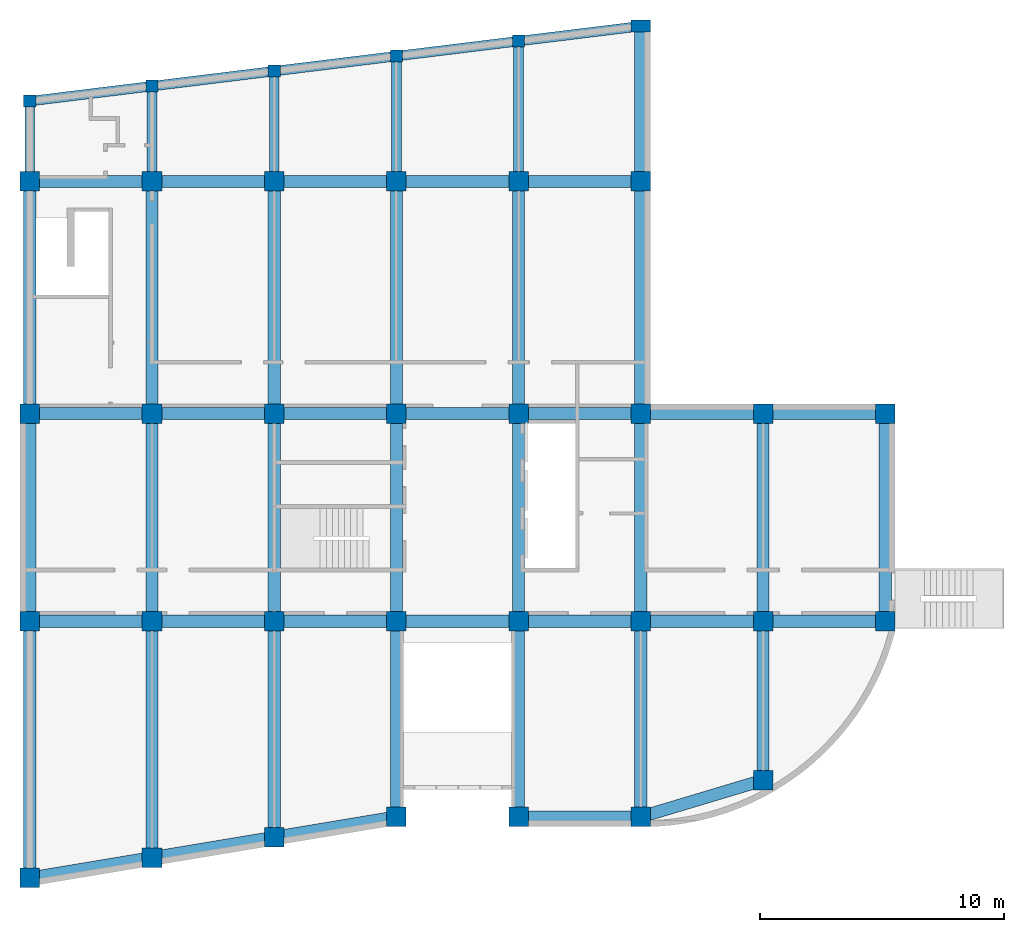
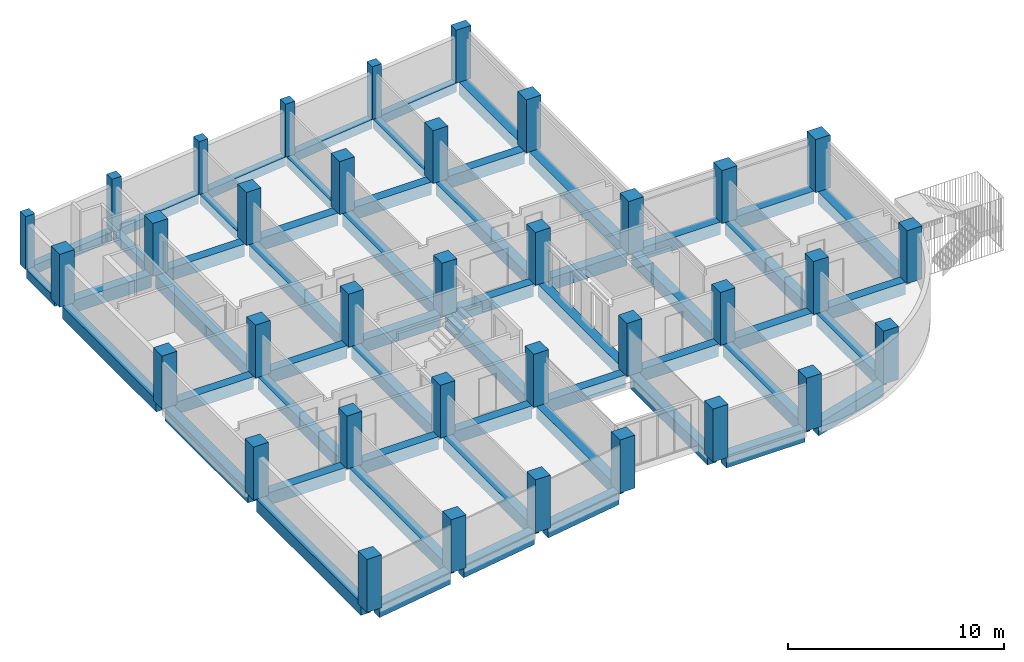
# One storey, part 2 of 7: 56 beams, 35 columns.
"""IFC2X3 building model written with IfcOpenShell, lengths in millimetres."""

from ifc_helpers import new_model, entity, si_unit, converted_unit, derived_unit, money_unit, direction, frame, origin_with_axes, place, context, subcontext, project, spatial, faceted_brep, material, type_object, element, save


model = new_model("IFC2X3")

# Units and contexts
model_context = context("Model", 3, precision=0.01, world=origin_with_axes(), true_north=direction((0.0, 1.0)))
body_context = subcontext(model_context, "Body", "Model", "MODEL_VIEW")
ifc_project = project(units=[si_unit("LENGTHUNIT", "METRE", prefix="MILLI"), si_unit("AREAUNIT", "SQUARE_METRE"), si_unit("VOLUMEUNIT", "CUBIC_METRE"), converted_unit("PLANEANGLEUNIT", "DEGREE", entity("IfcPlaneAngleMeasure", 0.0174532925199), si_unit("PLANEANGLEUNIT", "RADIAN"), dimensions=[0, 0, 0, 0, 0, 0, 0]), si_unit("SOLIDANGLEUNIT", "STERADIAN"), money_unit("JPY"), converted_unit("TIMEUNIT", "Year", entity("IfcTimeMeasure", 31556926.0), si_unit("TIMEUNIT", "SECOND"), dimensions=[0, 0, 1, 0, 0, 0, 0]), si_unit("MASSUNIT", "GRAM", prefix="KILO"), si_unit("THERMODYNAMICTEMPERATUREUNIT", "DEGREE_CELSIUS"), si_unit("LUMINOUSINTENSITYUNIT", "LUMEN"), si_unit("ENERGYUNIT", "JOULE", prefix="MEGA"), derived_unit("THERMALCONDUCTANCEUNIT", [(si_unit("POWERUNIT", "WATT"), 1), (si_unit("LENGTHUNIT", "METRE"), -1), (si_unit("THERMODYNAMICTEMPERATUREUNIT", "KELVIN"), -1)]), derived_unit("SPECIFICHEATCAPACITYUNIT", [(si_unit("ENERGYUNIT", "JOULE"), 1), (si_unit("MASSUNIT", "GRAM", prefix="KILO"), -1), (si_unit("THERMODYNAMICTEMPERATUREUNIT", "KELVIN"), -1)]), derived_unit("MASSDENSITYUNIT", [(si_unit("MASSUNIT", "GRAM", prefix="KILO"), 1), (si_unit("VOLUMEUNIT", "CUBIC_METRE"), -1)])], contexts=[model_context])

# Site, building, storey
site_placement = place(None, origin_with_axes())
site = spatial("IfcSite", under=ifc_project, at=site_placement, Name="サイト", CompositionType="ELEMENT")
building_placement = place(site_placement, origin_with_axes())
building = spatial("IfcBuilding", under=site, at=building_placement, Name="建築", CompositionType="ELEMENT")
storey_placement = place(building_placement, frame((0.0, 0.0, 3000.0), z_axis=(0.0, 0.0, 1.0), x_axis=(1.0, 0.0, 0.0)))
storey = spatial("IfcBuildingStorey", under=building, at=storey_placement, Name="2FL", CompositionType="ELEMENT", Elevation=3000.0)

# Columns
ifc_material = material(Name="コンクリート")
column_type_1 = type_object("IfcColumnType", Name="コンクリート 800 x 800", PredefinedType="NOTDEFINED")
for number, where, z_axis, x_axis, name in (
    (1, (0.0, 0.0, 0.0), (0.0, 0.0, 1.0), (1.0, 0.0, 0.0), "C1"),
    (2, (5000.0, 0.0, 0.0), (0.0, 0.0, 1.0), (1.0, 0.0, 0.0), "C1"),
    (3, (10000.0, 0.0, 0.0), (0.0, 0.0, 1.0), (1.0, 0.0, 0.0), "C1"),
    (4, (15000.0, 0.0, 0.0), (0.0, 0.0, 1.0), (1.0, 0.0, 0.0), "C1"),
    (5, (20000.0, 0.0, 0.0), (0.0, 0.0, 1.0), (1.0, 0.0, 0.0), "C1"),
    (6, (25000.0, 0.0, 0.0), (0.0, 0.0, 1.0), (1.0, 0.0, 0.0), "C1"),
    (7, (30000.0, 0.0, 0.0), (0.0, 0.0, 1.0), (1.0, 0.0, 0.0), "C1"),
    (8, (35000.0, 0.0, 0.0), (0.0, 0.0, 1.0), (1.0, 0.0, 0.0), "C1"),
    (9, (35000.0, 8500.0, 0.0), (0.0, 0.0, 1.0), (1.0, 0.0, 0.0), "C1"),
    (10, (30000.0, 8500.0, 0.0), (0.0, 0.0, 1.0), (1.0, 0.0, 0.0), "C1"),
    (11, (25000.0, 8500.0, 0.0), (0.0, 0.0, 1.0), (1.0, 0.0, 0.0), "C1"),
    (12, (20000.0, 8500.0, 0.0), (0.0, 0.0, 1.0), (1.0, 0.0, 0.0), "C1"),
    (13, (15000.0, 8500.0, 0.0), (0.0, 0.0, 1.0), (1.0, 0.0, 0.0), "C1"),
    (14, (10000.0, 8500.0, 0.0), (0.0, 0.0, 1.0), (1.0, 0.0, 0.0), "C1"),
    (15, (5000.0, 8500.0, 0.0), (0.0, 0.0, 1.0), (1.0, 0.0, 0.0), "C1"),
    (16, (0.0, 8500.0, 0.0), (0.0, 0.0, 1.0), (1.0, 0.0, 0.0), "C1"),
    (17, (0.0, -10500.0, 0.0), (0.0, 0.0, 1.0), (1.0, 0.0, 0.0), "C1"),
    (18, (5000.0, -9666.66666667, 0.0), (0.0, 0.0, 1.0), (1.0, 0.0, 0.0), "C1"),
    (19, (10000.0, -8833.33333333, 0.0), (0.0, 0.0, 1.0), (1.0, 0.0, 0.0), "C1"),
    (20, (15000.0, -8000.0, 0.0), (0.0, 0.0, 1.0), (1.0, 0.0, 0.0), "C1"),
    (21, (20000.0, -8000.0, 0.0), (0.0, 0.0, 1.0), (1.0, 0.0, 0.0), "C1"),
    (22, (25000.0, -8000.0, 0.0), (0.0, 0.0, 1.0), (1.0, 0.0, 0.0), "C1"),
    (23, (25000.0, 18000.0, 0.0), (0.0, 0.0, 1.0), (1.0, 0.0, 0.0), "C1"),
    (24, (20000.0, 18000.0, 0.0), (0.0, 0.0, 1.0), (1.0, 0.0, 0.0), "C1"),
    (25, (15000.0, 18000.0, 0.0), (0.0, 0.0, 1.0), (1.0, 0.0, 0.0), "C1"),
    (26, (10000.0, 18000.0, 0.0), (0.0, 0.0, 1.0), (1.0, 0.0, 0.0), "C1"),
    (27, (5000.0, 18000.0, 0.0), (0.0, 0.0, 1.0), (1.0, 0.0, 0.0), "C1"),
    (28, (0.0, 18000.0, 0.0), (0.0, 0.0, 1.0), (1.0, 0.0, 0.0), "C1"),
    (29, (30000.0, -6500.0, 0.0), (0.0, 0.0, 1.0), (1.0, 0.0, 0.0), "C1"),
):
    element("IfcColumn", number, at=place(storey_placement, frame(where, z_axis=z_axis, x_axis=x_axis)), inside=storey, type_object=column_type_1, material=ifc_material, Name=name, context=body_context, shape_type="Brep", body=[
        faceted_brep([(-400.0, -400.0, 3000.0), (-400.0, -400.0, 0.0), (400.0, -400.0, 0.0), (400.0, -400.0, 3000.0), (-400.0, 400.0, 3000.0), (-400.0, 400.0, 0.0), (400.0, 400.0, 0.0), (400.0, 400.0, 3000.0)], [[[0, 1, 2, 3]], [[4, 5, 1, 0]], [[2, 1, 5, 6]], [[3, 2, 6, 7]], [[4, 0, 3, 7]], [[7, 6, 5, 4]]]),
    ])
column_type_2 = type_object("IfcColumnType", Name="コンクリート 800 x 500", PredefinedType="NOTDEFINED")
column_placement = place(storey_placement, frame((25000.0, 24352.6436992, 0.0), z_axis=(0.0, 0.0, 1.0), x_axis=(1.0, 0.0, 0.0)))
element("IfcColumn", 30, at=column_placement, inside=storey, type_object=column_type_2, material=ifc_material, Name="C3", context=body_context, shape_type="Brep", body=[
    faceted_brep([(-400.0, -250.0, 3000.0), (-400.0, -250.0, 0.0), (400.0, -250.0, 0.0), (400.0, -250.0, 3000.0), (-400.0, 250.0, 3000.0), (-400.0, 250.0, 0.0), (400.0, 250.0, 0.0), (400.0, 250.0, 3000.0)], [[[0, 1, 2, 3]], [[4, 5, 1, 0]], [[2, 1, 5, 6]], [[3, 2, 6, 7]], [[4, 0, 3, 7]], [[7, 6, 5, 4]]]),
])
column_type_3 = type_object("IfcColumnType", Name="コンクリート 500 x 500", PredefinedType="NOTDEFINED")
for number, where, z_axis, x_axis, name in (
    (31, (20000.0, 23738.7208947, 0.0), (0.0, 0.0, 1.0), (1.0, 0.0, 0.0), "C2"),
    (32, (15000.0, 23124.7980902, 0.0), (0.0, 0.0, 1.0), (1.0, 0.0, 0.0), "C2"),
    (33, (10000.0, 22510.8752856, 0.0), (0.0, 0.0, 1.0), (1.0, 0.0, 0.0), "C2"),
    (34, (5000.0, 21896.9524811, 0.0), (0.0, 0.0, 1.0), (1.0, 0.0, 0.0), "C2"),
    (35, (0.0, 21283.0296766, 0.0), (0.0, 0.0, 1.0), (1.0, 0.0, 0.0), "C2"),
):
    element("IfcColumn", number, at=place(storey_placement, frame(where, z_axis=z_axis, x_axis=x_axis)), inside=storey, type_object=column_type_3, material=ifc_material, Name=name, context=body_context, shape_type="Brep", body=[
        faceted_brep([(-250.0, -250.0, 3000.0), (-250.0, -250.0, 0.0), (250.0, -250.0, 0.0), (250.0, -250.0, 3000.0), (-250.0, 250.0, 3000.0), (-250.0, 250.0, 0.0), (250.0, 250.0, 0.0), (250.0, 250.0, 3000.0)], [[[0, 1, 2, 3]], [[4, 5, 1, 0]], [[2, 1, 5, 6]], [[3, 2, 6, 7]], [[4, 0, 3, 7]], [[7, 6, 5, 4]]]),
    ])

# Beams
beam_type_1 = type_object("IfcBeamType", Name="コンクリート 500 x 700", PredefinedType="NOTDEFINED")
beam_1_placement = place(storey_placement, frame((30000.0, 0.0, 0.0), z_axis=(0.0, 0.0, 1.0), x_axis=(-1.0, 0.0, 0.0)))
element("IfcBeam", 36, at=beam_1_placement, inside=storey, type_object=beam_type_1, material=ifc_material, Name="G1", context=body_context, shape_type="Brep", body=[
    faceted_brep([(-250.0, 6100.0, -700.0), (-250.0, 400.0, -700.0), (-250.0, 400.0, 0.0), (-250.0, 6100.0, 0.0), (250.0, 6100.0, -700.0), (250.0, 400.0, -700.0), (250.0, 400.0, 0.0), (250.0, 6100.0, 0.0)], [[[0, 1, 2, 3]], [[4, 5, 1, 0]], [[5, 6, 2, 1]], [[3, 2, 6, 7]], [[4, 0, 3, 7]], [[7, 6, 5, 4]]]),
])
beam_2_placement = place(storey_placement, frame((30000.0, -6500.0, 0.0), z_axis=(0.0, 0.0, 1.0), x_axis=(-0.287347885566, 0.957826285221, 0.0)))
element("IfcBeam", 37, at=beam_2_placement, inside=storey, type_object=beam_type_1, material=ifc_material, Name="G2", context=body_context, shape_type="Brep", body=[
    faceted_brep([(250.000000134, 342.612260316, -700.0), (250.000003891, 4727.54099293, -700.0), (250.000003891, 4727.54099293, 0.0), (250.000000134, 342.612260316, 0.0), (-249.99999984, 492.612260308, -700.0), (-249.999998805, 4877.54099374, -700.0), (-249.999998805, 4877.54099374, 0.0), (-249.99999984, 492.612260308, 0.0)], [[[0, 1, 2, 3]], [[4, 5, 1, 0]], [[5, 6, 2, 1]], [[3, 2, 6, 7]], [[4, 0, 3, 7]], [[7, 6, 5, 4]]]),
])
for number, where, z_axis, x_axis, name in (
    (38, (0.0, 0.0, 0.0), (0.0, 0.0, 1.0), (0.0, -1.0, 0.0), "G1"),
    (39, (5000.0, 0.0, 0.0), (0.0, 0.0, 1.0), (0.0, -1.0, 0.0), "G1"),
    (40, (10000.0, 0.0, 0.0), (0.0, 0.0, 1.0), (0.0, -1.0, 0.0), "G1"),
    (41, (15000.0, 0.0, 0.0), (0.0, 0.0, 1.0), (0.0, -1.0, 0.0), "G1"),
    (42, (20000.0, 0.0, 0.0), (0.0, 0.0, 1.0), (0.0, -1.0, 0.0), "G1"),
    (43, (25000.0, 0.0, 0.0), (0.0, 0.0, 1.0), (0.0, -1.0, 0.0), "G1"),
    (44, (30000.0, 0.0, 0.0), (0.0, 0.0, 1.0), (0.0, -1.0, 0.0), "G1"),
):
    element("IfcBeam", number, at=place(storey_placement, frame(where, z_axis=z_axis, x_axis=x_axis)), inside=storey, type_object=beam_type_1, material=ifc_material, Name=name, context=body_context, shape_type="Brep", body=[
        faceted_brep([(-250.0, 4600.0, -700.0), (-250.0, 400.0, -700.0), (-250.0, 400.0, 0.0), (-250.0, 4600.0, 0.0), (250.0, 4600.0, -700.0), (250.0, 400.0, -700.0), (250.0, 400.0, 0.0), (250.0, 4600.0, 0.0)], [[[0, 1, 2, 3]], [[4, 5, 1, 0]], [[5, 6, 2, 1]], [[3, 2, 6, 7]], [[4, 0, 3, 7]], [[7, 6, 5, 4]]]),
    ])
for number, where, z_axis, x_axis, name in (
    (45, (0.0, 8500.0, 0.0), (0.0, 0.0, 1.0), (0.0, -1.0, 0.0), "G1"),
    (46, (5000.0, 8500.0, 0.0), (0.0, 0.0, 1.0), (0.0, -1.0, 0.0), "G1"),
    (47, (10000.0, 8500.0, 0.0), (0.0, 0.0, 1.0), (0.0, -1.0, 0.0), "G1"),
    (48, (15000.0, 8500.0, 0.0), (0.0, 0.0, 1.0), (0.0, -1.0, 0.0), "G1"),
    (49, (20000.0, 8500.0, 0.0), (0.0, 0.0, 1.0), (0.0, -1.0, 0.0), "G1"),
    (50, (25000.0, 8500.0, 0.0), (0.0, 0.0, 1.0), (0.0, -1.0, 0.0), "G1"),
    (51, (30000.0, 8500.0, 0.0), (0.0, 0.0, 1.0), (0.0, -1.0, 0.0), "G1"),
):
    element("IfcBeam", number, at=place(storey_placement, frame(where, z_axis=z_axis, x_axis=x_axis)), inside=storey, type_object=beam_type_1, material=ifc_material, Name=name, context=body_context, shape_type="Brep", body=[
        faceted_brep([(250.0, 400.0, 0.0), (250.0, 4600.0, 0.0), (-250.0, 4600.0, 0.0), (-250.0, 400.0, 0.0), (250.0, 400.0, -700.0), (250.0, 4600.0, -700.0), (-250.0, 4600.0, -700.0), (-250.0, 400.0, -700.0)], [[[0, 1, 2, 3]], [[4, 5, 1, 0]], [[5, 6, 2, 1]], [[3, 2, 6, 7]], [[4, 0, 3, 7]], [[7, 6, 5, 4]]]),
    ])
beam_3_placement = place(storey_placement, frame((35000.0, 8500.0, 0.0), z_axis=(0.0, 0.0, 1.0), x_axis=(-1.0, 0.0, 0.0)))
element("IfcBeam", 52, at=beam_3_placement, inside=storey, type_object=beam_type_1, material=ifc_material, Name="G1", context=body_context, shape_type="Brep", body=[
    faceted_brep([(250.0, 400.0, 0.0), (250.0, 8100.0, 0.0), (-250.0, 8100.0, 0.0), (-250.0, 400.0, 0.0), (250.0, 400.0, -700.0), (250.0, 8100.0, -700.0), (-250.0, 8100.0, -700.0), (-250.0, 400.0, -700.0)], [[[0, 1, 2, 3]], [[4, 5, 1, 0]], [[5, 6, 2, 1]], [[3, 2, 6, 7]], [[4, 0, 3, 7]], [[7, 6, 5, 4]]]),
])
beam_4_placement = place(storey_placement, origin_with_axes())
element("IfcBeam", 53, at=beam_4_placement, inside=storey, type_object=beam_type_1, material=ifc_material, Name="G1", context=body_context, shape_type="Brep", body=[
    faceted_brep([(-250.0, 8100.0, 0.0), (-250.0, 400.0, 0.0), (250.0, 400.0, 0.0), (250.0, 8100.0, 0.0), (-250.0, 8100.0, -700.0), (-250.0, 400.0, -700.0), (250.0, 400.0, -700.0), (250.0, 8100.0, -700.0)], [[[0, 1, 2, 3]], [[4, 5, 1, 0]], [[5, 6, 2, 1]], [[3, 2, 6, 7]], [[4, 0, 3, 7]], [[7, 6, 5, 4]]]),
])
beam_5_placement = place(storey_placement, frame((0.0, 18000.0, 0.0), z_axis=(0.0, 0.0, 1.0), x_axis=(-1.0, 0.0, 0.0)))
element("IfcBeam", 54, at=beam_5_placement, inside=storey, type_object=beam_type_1, material=ifc_material, Name="G1", context=body_context, shape_type="Brep", body=[
    faceted_brep([(250.0, 400.0, 0.0), (250.0, 9100.0, 0.0), (-250.0, 9100.0, 0.0), (-250.0, 400.0, 0.0), (250.0, 400.0, -700.0), (250.0, 9100.0, -700.0), (-250.0, 9100.0, -700.0), (-250.0, 400.0, -700.0)], [[[0, 1, 2, 3]], [[4, 5, 1, 0]], [[5, 6, 2, 1]], [[3, 2, 6, 7]], [[4, 0, 3, 7]], [[7, 6, 5, 4]]]),
])
for number, where, z_axis, x_axis, name in (
    (55, (0.0, 18000.0, 0.0), (0.0, 0.0, 1.0), (0.0, -1.0, 0.0), "G1"),
    (56, (5000.0, 18000.0, 0.0), (0.0, 0.0, 1.0), (0.0, -1.0, 0.0), "G1"),
    (57, (10000.0, 18000.0, 0.0), (0.0, 0.0, 1.0), (0.0, -1.0, 0.0), "G1"),
    (58, (15000.0, 18000.0, 0.0), (0.0, 0.0, 1.0), (0.0, -1.0, 0.0), "G1"),
    (59, (20000.0, 18000.0, 0.0), (0.0, 0.0, 1.0), (0.0, -1.0, 0.0), "G1"),
):
    element("IfcBeam", number, at=place(storey_placement, frame(where, z_axis=z_axis, x_axis=x_axis)), inside=storey, type_object=beam_type_1, material=ifc_material, Name=name, context=body_context, shape_type="Brep", body=[
        faceted_brep([(250.0, 400.0, 0.0), (250.0, 4600.0, 0.0), (-250.0, 4600.0, 0.0), (-250.0, 400.0, 0.0), (250.0, 400.0, -700.0), (250.0, 4600.0, -700.0), (-250.0, 4600.0, -700.0), (-250.0, 400.0, -700.0)], [[[0, 1, 2, 3]], [[4, 5, 1, 0]], [[5, 6, 2, 1]], [[3, 2, 6, 7]], [[4, 0, 3, 7]], [[7, 6, 5, 4]]]),
    ])
beam_6_placement = place(storey_placement, frame((25000.0, 18000.0, 0.0), z_axis=(0.0, 0.0, 1.0), x_axis=(-1.0, 0.0, 0.0)))
element("IfcBeam", 60, at=beam_6_placement, inside=storey, type_object=beam_type_1, material=ifc_material, Name="G1", context=body_context, shape_type="Brep", body=[
    faceted_brep([(250.0, 400.0, 0.0), (250.0, 9100.0, 0.0), (-250.0, 9100.0, 0.0), (-250.0, 400.0, 0.0), (250.0, 400.0, -700.0), (250.0, 9100.0, -700.0), (-250.0, 9100.0, -700.0), (-250.0, 400.0, -700.0)], [[[0, 1, 2, 3]], [[4, 5, 1, 0]], [[5, 6, 2, 1]], [[3, 2, 6, 7]], [[4, 0, 3, 7]], [[7, 6, 5, 4]]]),
])
for number, where, z_axis, x_axis, name in (
    (61, (5000.0, 8500.0, 0.0), (0.0, 0.0, 1.0), (-1.0, 0.0, 0.0), "G1"),
    (62, (10000.0, 8500.0, 0.0), (0.0, 0.0, 1.0), (-1.0, 0.0, 0.0), "G1"),
    (63, (15000.0, 8500.0, 0.0), (0.0, 0.0, 1.0), (-1.0, 0.0, 0.0), "G1"),
    (64, (20000.0, 8500.0, 0.0), (0.0, 0.0, 1.0), (-1.0, 0.0, 0.0), "G1"),
    (65, (25000.0, 8500.0, 0.0), (0.0, 0.0, 1.0), (-1.0, 0.0, 0.0), "G1"),
    (66, (30000.0, 8500.0, 0.0), (0.0, 0.0, 1.0), (-1.0, 0.0, 0.0), "G1"),
):
    element("IfcBeam", number, at=place(storey_placement, frame(where, z_axis=z_axis, x_axis=x_axis)), inside=storey, type_object=beam_type_1, material=ifc_material, Name=name, context=body_context, shape_type="Brep", body=[
        faceted_brep([(250.0, 400.0, 0.0), (250.0, 8100.0, 0.0), (-250.0, 8100.0, 0.0), (-250.0, 400.0, 0.0), (250.0, 400.0, -700.0), (250.0, 8100.0, -700.0), (-250.0, 8100.0, -700.0), (-250.0, 400.0, -700.0)], [[[0, 1, 2, 3]], [[4, 5, 1, 0]], [[5, 6, 2, 1]], [[3, 2, 6, 7]], [[4, 0, 3, 7]], [[7, 6, 5, 4]]]),
    ])
beam_7_placement = place(storey_placement, frame((25000.0, 0.0, 0.0), z_axis=(0.0, 0.0, 1.0), x_axis=(-1.0, 0.0, 0.0)))
element("IfcBeam", 67, at=beam_7_placement, inside=storey, type_object=beam_type_1, material=ifc_material, Name="G1", context=body_context, shape_type="Brep", body=[
    faceted_brep([(-250.0, 7600.0, -700.0), (-250.0, 400.0, -700.0), (-250.0, 400.0, 0.0), (-250.0, 7600.0, 0.0), (250.0, 7600.0, -700.0), (250.0, 400.0, -700.0), (250.0, 400.0, 0.0), (250.0, 7600.0, 0.0)], [[[0, 1, 2, 3]], [[4, 5, 1, 0]], [[5, 6, 2, 1]], [[3, 2, 6, 7]], [[4, 0, 3, 7]], [[7, 6, 5, 4]]]),
])
beam_8_placement = place(storey_placement, frame((25000.0, -8000.0, 0.0), z_axis=(0.0, 0.0, 1.0), x_axis=(0.0, 1.0, 0.0)))
element("IfcBeam", 68, at=beam_8_placement, inside=storey, type_object=beam_type_1, material=ifc_material, Name="G1", context=body_context, shape_type="Brep", body=[
    faceted_brep([(250.0, 400.0, -700.0), (250.0, 4600.0, -700.0), (250.0, 4600.0, 0.0), (250.0, 400.0, 0.0), (-250.000004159, 400.0, -700.0), (-250.000000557, 4600.0, -700.0), (-250.000000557, 4600.0, 0.0), (-250.000004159, 400.0, 0.0)], [[[0, 1, 2, 3]], [[4, 5, 1, 0]], [[5, 6, 2, 1]], [[3, 2, 6, 7]], [[4, 0, 3, 7]], [[7, 6, 5, 4]]]),
])
beam_9_placement = place(storey_placement, frame((20000.0, -8000.0, 0.0), z_axis=(0.0, 0.0, 1.0), x_axis=(1.0, 0.0, 0.0)))
element("IfcBeam", 69, at=beam_9_placement, inside=storey, type_object=beam_type_1, material=ifc_material, Name="G1", context=body_context, shape_type="Brep", body=[
    faceted_brep([(250.0, 400.0, -700.0), (250.0, 7600.0, -700.0), (250.0, 7600.0, 0.0), (250.0, 400.0, 0.0), (-250.0, 400.0, -700.0), (-250.0, 7600.0, -700.0), (-250.0, 7600.0, 0.0), (-250.0, 400.0, 0.0)], [[[0, 1, 2, 3]], [[4, 5, 1, 0]], [[5, 6, 2, 1]], [[3, 2, 6, 7]], [[4, 0, 3, 7]], [[7, 6, 5, 4]]]),
])
beam_10_placement = place(storey_placement, frame((15000.0, 0.0, 0.0), z_axis=(0.0, 0.0, 1.0), x_axis=(-1.0, 0.0, 0.0)))
element("IfcBeam", 70, at=beam_10_placement, inside=storey, type_object=beam_type_1, material=ifc_material, Name="G1", context=body_context, shape_type="Brep", body=[
    faceted_brep([(-250.0, 7600.0, -700.0), (-250.0, 400.0, -700.0), (-250.0, 400.0, 0.0), (-250.0, 7600.0, 0.0), (250.0, 7600.0, -700.0), (250.0, 400.0, -700.0), (250.0, 400.0, 0.0), (250.0, 7600.0, 0.0)], [[[0, 1, 2, 3]], [[4, 5, 1, 0]], [[5, 6, 2, 1]], [[3, 2, 6, 7]], [[4, 0, 3, 7]], [[7, 6, 5, 4]]]),
])
beam_11_placement = place(storey_placement, frame((15000.0, -8000.0, 0.0), z_axis=(0.0, 0.0, 1.0), x_axis=(-0.164398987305, 0.986393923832, 0.0)))
element("IfcBeam", 71, at=beam_11_placement, inside=storey, type_object=beam_type_1, material=ifc_material, Name="G1", context=body_context, shape_type="Brep", body=[
    faceted_brep([(250.0, 363.850835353, -700.0), (250.0, 4621.78460656, -700.0), (250.0, 4621.78460656, 0.0), (250.0, 363.850835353, 0.0), (-250.000000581, 447.184168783, -700.0), (-250.000004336, 4705.11794062, -700.0), (-250.000004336, 4705.11794062, 0.0), (-250.000000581, 447.184168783, 0.0)], [[[0, 1, 2, 3]], [[4, 5, 1, 0]], [[5, 6, 2, 1]], [[3, 2, 6, 7]], [[4, 0, 3, 7]], [[7, 6, 5, 4]]]),
])
beam_12_placement = place(storey_placement, frame((10000.0, -8833.33333333, 0.0), z_axis=(0.0, 0.0, 1.0), x_axis=(-0.164398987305, 0.986393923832, 0.0)))
element("IfcBeam", 72, at=beam_12_placement, inside=storey, type_object=beam_type_1, material=ifc_material, Name="G1", context=body_context, shape_type="Brep", body=[
    faceted_brep([(249.99999567, 363.850836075, -700.0), (249.999999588, 4621.78460663, -700.0), (249.999999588, 4621.78460663, 0.0), (249.99999567, 363.850836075, 0.0), (-250.00000447, 447.184169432, -700.0), (-250.00000447, 4705.11794064, -700.0), (-250.00000447, 4705.11794064, 0.0), (-250.00000447, 447.184169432, 0.0)], [[[0, 1, 2, 3]], [[4, 5, 1, 0]], [[5, 6, 2, 1]], [[3, 2, 6, 7]], [[4, 0, 3, 7]], [[7, 6, 5, 4]]]),
])
beam_13_placement = place(storey_placement, frame((5000.0, -9666.66666667, 0.0), z_axis=(0.0, 0.0, 1.0), x_axis=(-0.164398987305, 0.986393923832, 0.0)))
element("IfcBeam", 73, at=beam_13_placement, inside=storey, type_object=beam_type_1, material=ifc_material, Name="G1", context=body_context, shape_type="Brep", body=[
    faceted_brep([(249.999995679, 363.850836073, -700.0), (249.999999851, 4621.78460659, -700.0), (249.999999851, 4621.78460659, 0.0), (249.999995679, 363.850836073, 0.0), (-250.000004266, 447.184169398, -700.0), (-250.000000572, 4705.11793999, -700.0), (-250.000000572, 4705.11793999, 0.0), (-250.000004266, 447.184169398, 0.0)], [[[0, 1, 2, 3]], [[4, 5, 1, 0]], [[5, 6, 2, 1]], [[3, 2, 6, 7]], [[4, 0, 3, 7]], [[7, 6, 5, 4]]]),
])
beam_14_placement = place(storey_placement, frame((0.0, -10500.0, 0.0), z_axis=(0.0, 0.0, 1.0), x_axis=(1.0, 0.0, 0.0)))
element("IfcBeam", 74, at=beam_14_placement, inside=storey, type_object=beam_type_1, material=ifc_material, Name="G1", context=body_context, shape_type="Brep", body=[
    faceted_brep([(250.0, 400.0, -700.0), (250.0, 10100.0, -700.0), (250.0, 10100.0, 0.0), (250.0, 400.0, 0.0), (-250.0, 400.0, -700.0), (-250.0, 10100.0, -700.0), (-250.0, 10100.0, 0.0), (-250.0, 400.0, 0.0)], [[[0, 1, 2, 3]], [[4, 5, 1, 0]], [[5, 6, 2, 1]], [[3, 2, 6, 7]], [[4, 0, 3, 7]], [[7, 6, 5, 4]]]),
])
beam_15_placement = place(storey_placement, frame((5000.0, 0.0, 0.0), z_axis=(0.0, 0.0, 1.0), x_axis=(-1.0, 0.0, 0.0)))
element("IfcBeam", 75, at=beam_15_placement, inside=storey, type_object=beam_type_1, material=ifc_material, Name="G1", context=body_context, shape_type="Brep", body=[
    faceted_brep([(-250.000000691, 9266.66666667, -700.0), (-250.000000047, 400.0, -700.0), (-250.000000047, 400.0, 0.0), (-250.000000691, 9266.66666667, 0.0), (249.999999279, 9266.66666667, -700.0), (249.999999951, 400.0, -700.0), (249.999999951, 400.0, 0.0), (249.999999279, 9266.66666667, 0.0)], [[[0, 1, 2, 3]], [[4, 5, 1, 0]], [[5, 6, 2, 1]], [[3, 2, 6, 7]], [[4, 0, 3, 7]], [[7, 6, 5, 4]]]),
])
beam_16_placement = place(storey_placement, frame((10000.0, 0.0, 0.0), z_axis=(0.0, 0.0, 1.0), x_axis=(-1.0, 0.0, 0.0)))
element("IfcBeam", 76, at=beam_16_placement, inside=storey, type_object=beam_type_1, material=ifc_material, Name="G1", context=body_context, shape_type="Brep", body=[
    faceted_brep([(-250.000000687, 8433.33333333, -700.0), (-250.000000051, 400.0, -700.0), (-250.000000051, 400.0, 0.0), (-250.000000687, 8433.33333333, 0.0), (249.999999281, 8433.33333333, -700.0), (249.999999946, 400.0, -700.0), (249.999999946, 400.0, 0.0), (249.999999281, 8433.33333333, 0.0)], [[[0, 1, 2, 3]], [[4, 5, 1, 0]], [[5, 6, 2, 1]], [[3, 2, 6, 7]], [[4, 0, 3, 7]], [[7, 6, 5, 4]]]),
])
beam_17_placement = place(storey_placement, frame((5000.0, 8500.0, 0.0), z_axis=(0.0, 0.0, 1.0), x_axis=(1.0, 0.0, 0.0)))
element("IfcBeam", 77, at=beam_17_placement, inside=storey, type_object=beam_type_1, material=ifc_material, Name="G1", context=body_context, shape_type="Brep", body=[
    faceted_brep([(-250.0, 9100.0, 0.0), (-250.0, 400.0, 0.0), (250.0, 400.0, 0.0), (250.0, 9100.0, 0.0), (-250.0, 9100.0, -700.0), (-250.0, 400.0, -700.0), (250.0, 400.0, -700.0), (250.0, 9100.0, -700.0)], [[[0, 1, 2, 3]], [[4, 5, 1, 0]], [[5, 6, 2, 1]], [[3, 2, 6, 7]], [[4, 0, 3, 7]], [[7, 6, 5, 4]]]),
])
for number, where, z_axis, x_axis, name in (
    (78, (10000.0, 18000.0, 0.0), (0.0, 0.0, 1.0), (-1.0, 0.0, 0.0), "G1"),
    (79, (15000.0, 18000.0, 0.0), (0.0, 0.0, 1.0), (-1.0, 0.0, 0.0), "G1"),
    (80, (20000.0, 18000.0, 0.0), (0.0, 0.0, 1.0), (-1.0, 0.0, 0.0), "G1"),
):
    element("IfcBeam", number, at=place(storey_placement, frame(where, z_axis=z_axis, x_axis=x_axis)), inside=storey, type_object=beam_type_1, material=ifc_material, Name=name, context=body_context, shape_type="Brep", body=[
        faceted_brep([(250.0, 400.0, 0.0), (250.0, 9100.0, 0.0), (-250.0, 9100.0, 0.0), (-250.0, 400.0, 0.0), (250.0, 400.0, -700.0), (250.0, 9100.0, -700.0), (-250.0, 9100.0, -700.0), (-250.0, 400.0, -700.0)], [[[0, 1, 2, 3]], [[4, 5, 1, 0]], [[5, 6, 2, 1]], [[3, 2, 6, 7]], [[4, 0, 3, 7]], [[7, 6, 5, 4]]]),
    ])
beam_18_placement = place(storey_placement, frame((25000.0, 18000.0, 0.0), z_axis=(0.0, 0.0, 1.0), x_axis=(1.0, 0.0, 0.0)))
element("IfcBeam", 81, at=beam_18_placement, inside=storey, type_object=beam_type_1, material=ifc_material, Name="G1", context=body_context, shape_type="Brep", body=[
    faceted_brep([(-250.0, 6102.64369919, 0.0), (-250.0, 400.0, 0.0), (250.0, 400.0, 0.0), (250.0, 6102.64369919, 0.0), (-250.0, 6102.64369919, -700.0), (-250.0, 400.0, -700.0), (250.0, 400.0, -700.0), (250.0, 6102.64369919, -700.0)], [[[0, 1, 2, 3]], [[4, 5, 1, 0]], [[5, 6, 2, 1]], [[3, 2, 6, 7]], [[4, 0, 3, 7]], [[7, 6, 5, 4]]]),
])
beam_type_2 = type_object("IfcBeamType", Name="コンクリート 400 x 500", PredefinedType="NOTDEFINED")
beam_19_placement = place(storey_placement, frame((0.0, 21283.0296766, 0.0), z_axis=(0.0, 0.0, 1.0), x_axis=(-1.0, 0.0, 0.0)))
element("IfcBeam", 82, at=beam_19_placement, inside=storey, type_object=beam_type_2, material=ifc_material, Name="G7", context=body_context, shape_type="Brep", body=[
    faceted_brep([(200.0, 250.0, 0.0), (200.0, 2883.02967662, 0.0), (-200.0, 2883.02967662, 0.0), (-200.0, 250.0, 0.0), (200.0, 250.0, -500.0), (200.0, 2883.02967662, -500.0), (-200.0, 2883.02967662, -500.0), (-200.0, 250.0, -500.0)], [[[0, 1, 2, 3]], [[4, 5, 1, 0]], [[5, 6, 2, 1]], [[3, 2, 6, 7]], [[4, 0, 3, 7]], [[7, 6, 5, 4]]]),
])
beam_20_placement = place(storey_placement, frame((20000.0, 18000.0, 0.0), z_axis=(0.0, 0.0, 1.0), x_axis=(1.0, 0.0, 0.0)))
element("IfcBeam", 83, at=beam_20_placement, inside=storey, type_object=beam_type_2, material=ifc_material, Name="G3", context=body_context, shape_type="Brep", body=[
    faceted_brep([(-200.0, 5488.72089468, 0.0), (-200.0, 400.0, 0.0), (200.0, 400.0, 0.0), (200.0, 5488.72089468, 0.0), (-200.0, 5488.72089468, -500.0), (-200.0, 400.0, -500.0), (200.0, 400.0, -500.0), (200.0, 5488.72089468, -500.0)], [[[0, 1, 2, 3]], [[4, 5, 1, 0]], [[5, 6, 2, 1]], [[3, 2, 6, 7]], [[4, 0, 3, 7]], [[7, 6, 5, 4]]]),
])
beam_21_placement = place(storey_placement, frame((15000.0, 23124.7980902, 0.0), z_axis=(0.0, 0.0, 1.0), x_axis=(-1.0, 0.0, 0.0)))
element("IfcBeam", 84, at=beam_21_placement, inside=storey, type_object=beam_type_2, material=ifc_material, Name="G4", context=body_context, shape_type="Brep", body=[
    faceted_brep([(200.0, 250.0, 0.0), (200.0, 4724.79809016, 0.0), (-200.0, 4724.79809016, 0.0), (-200.0, 250.0, 0.0), (200.0, 250.0, -500.0), (200.0, 4724.79809016, -500.0), (-200.0, 4724.79809016, -500.0), (-200.0, 250.0, -500.0)], [[[0, 1, 2, 3]], [[4, 5, 1, 0]], [[5, 6, 2, 1]], [[3, 2, 6, 7]], [[4, 0, 3, 7]], [[7, 6, 5, 4]]]),
])
beam_22_placement = place(storey_placement, frame((10000.0, 22510.8752856, 0.0), z_axis=(0.0, 0.0, 1.0), x_axis=(-1.0, 0.0, 0.0)))
element("IfcBeam", 85, at=beam_22_placement, inside=storey, type_object=beam_type_2, material=ifc_material, Name="G5", context=body_context, shape_type="Brep", body=[
    faceted_brep([(200.0, 250.0, 0.0), (200.0, 4110.87528565, 0.0), (-200.0, 4110.87528565, 0.0), (-200.0, 250.0, 0.0), (200.0, 250.0, -500.0), (200.0, 4110.87528565, -500.0), (-200.0, 4110.87528565, -500.0), (-200.0, 250.0, -500.0)], [[[0, 1, 2, 3]], [[4, 5, 1, 0]], [[5, 6, 2, 1]], [[3, 2, 6, 7]], [[4, 0, 3, 7]], [[7, 6, 5, 4]]]),
])
beam_23_placement = place(storey_placement, frame((5000.0, 21896.9524811, 0.0), z_axis=(0.0, 0.0, 1.0), x_axis=(-1.0, 0.0, 0.0)))
element("IfcBeam", 86, at=beam_23_placement, inside=storey, type_object=beam_type_2, material=ifc_material, Name="G6", context=body_context, shape_type="Brep", body=[
    faceted_brep([(200.0, 250.0, 0.0), (200.0, 3496.95248113, 0.0), (-200.0, 3496.95248113, 0.0), (-200.0, 250.0, 0.0), (200.0, 250.0, -500.0), (200.0, 3496.95248113, -500.0), (-200.0, 3496.95248113, -500.0), (-200.0, 250.0, -500.0)], [[[0, 1, 2, 3]], [[4, 5, 1, 0]], [[5, 6, 2, 1]], [[3, 2, 6, 7]], [[4, 0, 3, 7]], [[7, 6, 5, 4]]]),
])
beam_24_placement = place(storey_placement, frame((20000.0, 23738.7208947, 0.0), z_axis=(0.0, 0.0, 1.0), x_axis=(0.121869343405, -0.992546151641, 0.0)))
element("IfcBeam", 87, at=beam_24_placement, inside=storey, type_object=beam_type_2, material=ifc_material, Name="G3", context=body_context, shape_type="Brep", body=[
    faceted_brep([(200.0, 227.320544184, -500.0), (200.0, 4615.04115086, -500.0), (200.0, 4615.04115086, 0.0), (200.0, 227.320544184, 0.0), (-200.0, 4659.10210929, -500.0), (199.388800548, 4610.06333079, -500.0), (-200.0, 276.434368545, -500.0), (199.388800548, 4610.06333079, 0.0), (-200.0, 4659.10210929, 0.0), (-200.0, 276.434368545, 0.0)], [[[0, 1, 2, 3]], [[4, 5, 1, 0, 6]], [[5, 7, 2, 1]], [[2, 7, 8, 9, 3]], [[0, 3, 9, 6]], [[5, 4, 8, 7]], [[9, 8, 4, 6]]]),
])
for number, where, z_axis, x_axis, name in (
    (88, (20000.0, 23738.7208947, 0.0), (0.0, 0.0, 1.0), (-0.121869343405, 0.992546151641, 0.0), "G4"),
    (89, (15000.0, 23124.7980902, 0.0), (0.0, 0.0, 1.0), (-0.121869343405, 0.992546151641, 0.0), "G5"),
    (90, (10000.0, 22510.8752856, 0.0), (0.0, 0.0, 1.0), (-0.121869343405, 0.992546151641, 0.0), "G6"),
    (91, (5000.0, 21896.9524811, 0.0), (0.0, 0.0, 1.0), (-0.121869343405, 0.992546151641, 0.0), "G7"),
):
    element("IfcBeam", number, at=place(storey_placement, frame(where, z_axis=z_axis, x_axis=x_axis)), inside=storey, type_object=beam_type_2, material=ifc_material, Name=name, context=body_context, shape_type="Brep", body=[
        faceted_brep([(-200.0, 4810.22858311, 0.0), (-200.0, 276.434368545, 0.0), (200.0, 227.320544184, 0.0), (200.0, 4761.11475875, 0.0), (-200.0, 4810.22858311, -500.0), (-200.0, 276.434368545, -500.0), (200.0, 227.320544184, -500.0), (200.0, 4761.11475875, -500.0)], [[[0, 1, 2, 3]], [[4, 5, 1, 0]], [[5, 6, 2, 1]], [[3, 2, 6, 7]], [[4, 0, 3, 7]], [[7, 6, 5, 4]]]),
    ])

save(model, "model.ifc")
